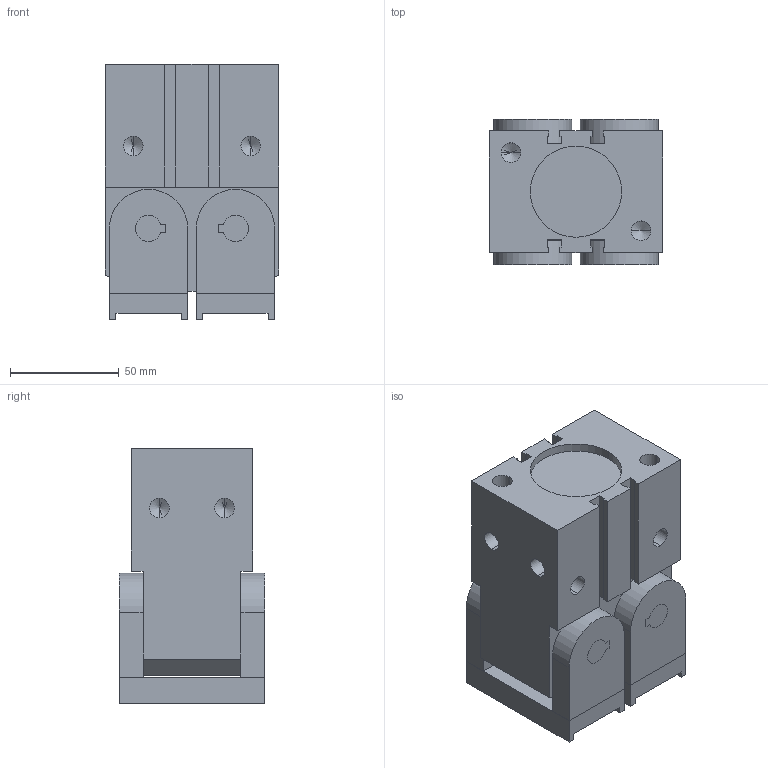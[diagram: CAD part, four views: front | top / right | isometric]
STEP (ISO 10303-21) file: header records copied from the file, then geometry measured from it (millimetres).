
FILE_DESCRIPTION (( 'STEP AP203' ), '1' );
FILE_NAME ('GHK 40 close.STEP', '2013-03-04T09:51:48', ( 'Conseil Régional Haute-Normandie' ), ( 'Conseil Régional Haute-Normandie' ), 'SwSTEP 2.0', 'SolidWorks 2010', '' );
FILE_SCHEMA (( 'CONFIG_CONTROL_DESIGN' ));
Length unit declared in the file: millimetre
Products named in the file (5): Pièce1  ghk_Default; GHK 40 close; Pièce2 ghk_Default; Pièce3 ghk_Default; Pièce5 GHK 40_Default
Assembly tree (9 placements, depth 2):
  GHK 40 close
    Pièce5 GHK 40_Default  x4
    Pièce3 ghk_Default  x2
    Pièce1  ghk_Default
    Pièce2 ghk_Default  x2
Bounding box: 80 x 67 x 117.5 mm (x, y, z)
Volume: 510732.3 mm3; surface area: 83443.7 mm2
Topology: 9 solids, 9 shells, 275 faces, 680 edges, 434 vertices
Faces by surface type: plane 189, cylinder 66, cone 20
Entity records: 5807 total; most frequent: CARTESIAN_POINT 893, DIRECTION 892, ORIENTED_EDGE 852, EDGE_CURVE 426, VECTOR 338, LINE 338, VERTEX_POINT 278, AXIS2_PLACEMENT_3D 277
